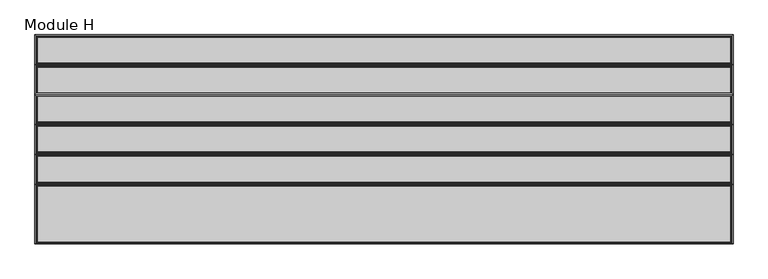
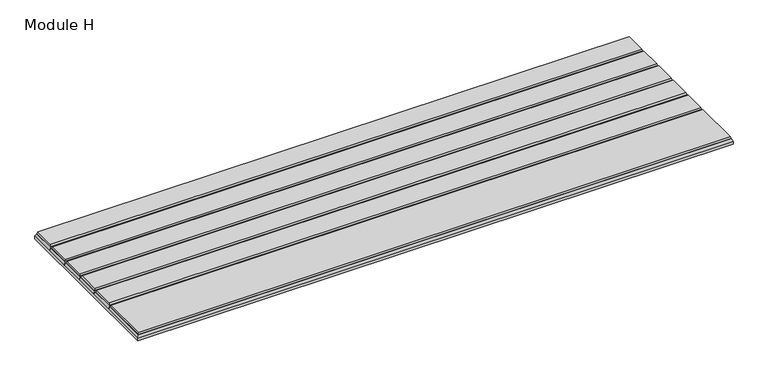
"""IFC4 building model written with IfcOpenShell, lengths in millimetres: proxy geometry, FilzFelt_Gap : Module H."""

from ifc_helpers import new_model, si_unit, origin, place, context, project, spatial, faceted_brep, source, transform, mapped, element, save


def module_h_7d357ae6(model_context):
    return source(origin(), model_context, "Body", "Brep", [
        faceted_brep([(-506.095, -150.495, 9.525), (506.095, -150.495, 9.525), (506.095, -67.2192857, 9.525), (-506.095, -67.2192857, 9.525), (506.095, 150.495, 9.525), (-506.095, 150.495, 9.525), (-506.095, 110.7621429, 9.525), (506.095, 110.7621429, 9.525), (506.095, 67.2192857, 9.525), (506.095, 106.9521429, 9.525), (-506.095, 106.9521429, 9.525), (-506.095, 67.2192857, 9.525), (506.095, 23.6764286, 9.525), (506.095, 63.4092857, 9.525), (-506.095, 63.4092857, 9.525), (-506.095, 23.6764286, 9.525), (506.095, -19.8664286, 9.525), (506.095, 19.8664286, 9.525), (-506.095, 19.8664286, 9.525), (-506.095, -19.8664286, 9.525), (506.095, -63.4092857, 9.525), (506.095, -23.6764286, 9.525), (-506.095, -23.6764286, 9.525), (-506.095, -63.4092857, 9.525), (508.0, 152.4, 0.0), (508.0, -152.4, 0.0), (-508.0, -152.4, 0.0), (-508.0, 152.4, 0.0), (-508.0, 152.4, 4.7625), (508.0, 152.4, 4.7625), (-508.0, -152.4, 4.7625), (-508.0, -65.3142857, 4.7625), (-508.0, -21.7714286, 4.7625), (-508.0, 21.7714286, 4.7625), (-508.0, 65.3142857, 4.7625), (-508.0, 108.8571429, 4.7625), (508.0, -152.4, 4.7625), (508.0, 108.8571429, 4.7625), (508.0, 65.3142857, 4.7625), (508.0, 21.7714286, 4.7625), (508.0, -21.7714286, 4.7625), (508.0, -65.3142857, 4.7625)], [[[0, 1, 2, 3]], [[4, 5, 6, 7]], [[8, 9, 10, 11]], [[12, 13, 14, 15]], [[16, 17, 18, 19]], [[20, 21, 22, 23]], [[24, 25, 26, 27]], [[24, 27, 28, 29]], [[27, 26, 30, 31, 32, 33, 34, 35, 28]], [[26, 25, 36, 30]], [[25, 24, 29, 37, 38, 39, 40, 41, 36]], [[9, 8, 38, 37]], [[13, 12, 39, 38]], [[17, 16, 40, 39]], [[21, 20, 41, 40]], [[1, 36, 41, 2]], [[29, 4, 7, 37]], [[36, 1, 0, 30]], [[11, 10, 35, 34]], [[15, 14, 34, 33]], [[19, 18, 33, 32]], [[23, 22, 32, 31]], [[30, 0, 3, 31]], [[5, 28, 35, 6]], [[28, 5, 4, 29]], [[35, 37, 7, 6]], [[37, 35, 10, 9]], [[34, 38, 8, 11]], [[38, 34, 14, 13]], [[33, 39, 12, 15]], [[39, 33, 18, 17]], [[32, 40, 16, 19]], [[40, 32, 22, 21]], [[31, 41, 20, 23]], [[41, 31, 3, 2]]]),
        faceted_brep([(506.095, -150.495, 9.525), (-506.095, -150.495, 9.525), (-506.095, -67.2192857, 9.525), (506.095, -67.2192857, 9.525), (-504.825, -149.225, 12.7), (504.825, -149.225, 12.7), (504.825, -68.4892857, 12.7), (-504.825, -68.4892857, 12.7)], [[[0, 1, 2, 3]], [[4, 5, 6, 7]], [[5, 0, 3, 6]], [[0, 5, 4, 1]], [[1, 4, 7, 2]], [[3, 2, 7, 6]]]),
        faceted_brep([(-506.095, 150.495, 9.525), (506.095, 150.495, 9.525), (506.095, 110.7621429, 9.525), (-506.095, 110.7621429, 9.525), (504.825, 149.225, 12.7), (-504.825, 149.225, 12.7), (-504.825, 112.0321429, 12.7), (504.825, 112.0321429, 12.7)], [[[0, 1, 2, 3]], [[4, 5, 6, 7]], [[1, 4, 7, 2]], [[5, 0, 3, 6]], [[0, 5, 4, 1]], [[3, 2, 7, 6]]]),
        faceted_brep([(506.095, 106.9521429, 9.525), (506.095, 67.2192857, 9.525), (-506.095, 67.2192857, 9.525), (-506.095, 106.9521429, 9.525), (504.825, 68.4892857, 12.7), (504.825, 105.6821429, 12.7), (-504.825, 105.6821429, 12.7), (-504.825, 68.4892857, 12.7)], [[[0, 1, 2, 3]], [[4, 5, 6, 7]], [[1, 0, 5, 4]], [[3, 2, 7, 6]], [[0, 3, 6, 5]], [[2, 1, 4, 7]]]),
        faceted_brep([(506.095, 63.4092857, 9.525), (506.095, 23.6764286, 9.525), (-506.095, 23.6764286, 9.525), (-506.095, 63.4092857, 9.525), (504.825, 24.9464286, 12.7), (504.825, 62.1392857, 12.7), (-504.825, 62.1392857, 12.7), (-504.825, 24.9464286, 12.7)], [[[0, 1, 2, 3]], [[4, 5, 6, 7]], [[1, 0, 5, 4]], [[3, 2, 7, 6]], [[0, 3, 6, 5]], [[2, 1, 4, 7]]]),
        faceted_brep([(506.095, 19.8664286, 9.525), (506.095, -19.8664286, 9.525), (-506.095, -19.8664286, 9.525), (-506.095, 19.8664286, 9.525), (504.825, -18.5964286, 12.7), (504.825, 18.5964286, 12.7), (-504.825, 18.5964286, 12.7), (-504.825, -18.5964286, 12.7)], [[[0, 1, 2, 3]], [[4, 5, 6, 7]], [[1, 0, 5, 4]], [[3, 2, 7, 6]], [[0, 3, 6, 5]], [[2, 1, 4, 7]]]),
        faceted_brep([(506.095, -23.6764286, 9.525), (506.095, -63.4092857, 9.525), (-506.095, -63.4092857, 9.525), (-506.095, -23.6764286, 9.525), (504.825, -62.1392857, 12.7), (504.825, -24.9464286, 12.7), (-504.825, -24.9464286, 12.7), (-504.825, -62.1392857, 12.7)], [[[0, 1, 2, 3]], [[4, 5, 6, 7]], [[1, 0, 5, 4]], [[3, 2, 7, 6]], [[0, 3, 6, 5]], [[2, 1, 4, 7]]]),
    ])


if __name__ == "__main__":
    model = new_model("IFC4")
    model_context = context("Model", 3, world=origin())
    ifc_project = project(units=[si_unit("LENGTHUNIT", "METRE", prefix="MILLI")], contexts=[model_context])
    site = spatial("IfcSite", under=ifc_project)
    building = spatial("IfcBuilding", under=site)
    placement = place(None, origin())
    module_h_shape = module_h_7d357ae6(model_context)
    element("IfcBuildingElementProxy", 1, Name="FilzFelt_Gap : Module H", ObjectType="FilzFelt_Gap : Module H", at=placement, inside=building, context=model_context, shape_type="MappedRepresentation", body=[
        mapped(module_h_shape, transform((0.0, 0.0, 0.0), x_axis=(1.0, 0.0, 0.0), y_axis=(0.0, 1.0, 0.0), z_axis=(0.0, 0.0, 1.0))),
    ])
    save(model, "model.ifc")
